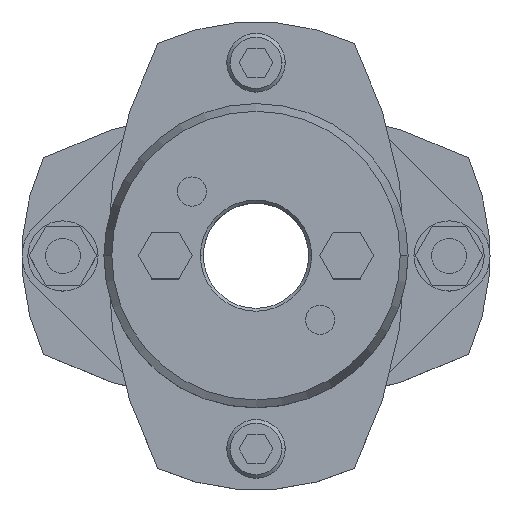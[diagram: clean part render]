
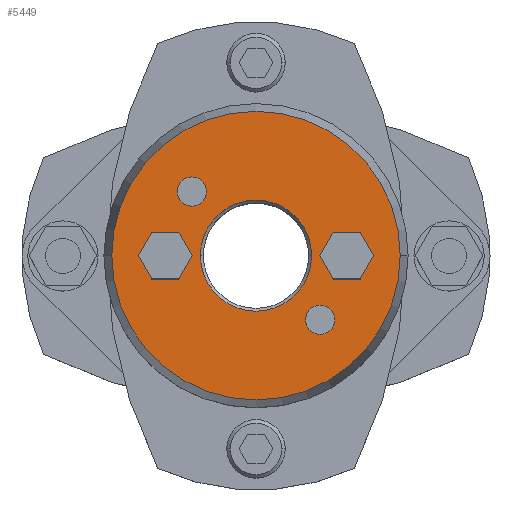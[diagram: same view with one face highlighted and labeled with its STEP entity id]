
A CAD part, top view. The second image highlights one B-rep face of the part: STEP entity #5449.
In plain terms, the highlighted planar face has unit normal (0, 0, 1).
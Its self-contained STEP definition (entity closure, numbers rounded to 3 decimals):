
#857=CARTESIAN_POINT('',(-9.5,0.,35.875));
#858=VERTEX_POINT('',#857);
#874=CARTESIAN_POINT('',(9.5,0.,35.875));
#875=VERTEX_POINT('',#874);
#882=CARTESIAN_POINT('',(0.,0.,35.875));
#883=DIRECTION('',(0.0,0.0,1.0));
#884=DIRECTION('',(-1.0,0.0,0.0));
#885=AXIS2_PLACEMENT_3D('',#882,#883,#884);
#886=CIRCLE('',#885,9.5);
#887=EDGE_CURVE('',#875,#858,#886,.T.);
#1045=CARTESIAN_POINT('',(24.66,0.,35.875));
#1046=VERTEX_POINT('',#1045);
#1053=CARTESIAN_POINT('',(-24.66,0.,35.875));
#1054=VERTEX_POINT('',#1053);
#1055=CARTESIAN_POINT('',(0.,0.,35.875));
#1056=DIRECTION('',(0.0,0.0,-1.0));
#1057=DIRECTION('',(1.0,0.0,0.0));
#1058=AXIS2_PLACEMENT_3D('',#1055,#1056,#1057);
#1059=CIRCLE('',#1058,24.66);
#1060=EDGE_CURVE('',#1046,#1054,#1059,.T.);
#1155=CARTESIAN_POINT('',(-13.46,10.96,35.875));
#1156=VERTEX_POINT('',#1155);
#1172=CARTESIAN_POINT('',(-8.46,10.96,35.875));
#1173=VERTEX_POINT('',#1172);
#1180=CARTESIAN_POINT('',(-10.96,10.96,35.875));
#1181=DIRECTION('',(0.0,0.0,-1.0));
#1182=DIRECTION('',(-1.0,0.0,0.0));
#1183=AXIS2_PLACEMENT_3D('',#1180,#1181,#1182);
#1184=CIRCLE('',#1183,2.5);
#1185=EDGE_CURVE('',#1156,#1173,#1184,.T.);
#1197=CARTESIAN_POINT('',(8.46,-10.96,35.875));
#1198=VERTEX_POINT('',#1197);
#1214=CARTESIAN_POINT('',(13.46,-10.96,35.875));
#1215=VERTEX_POINT('',#1214);
#1222=CARTESIAN_POINT('',(10.96,-10.96,35.875));
#1223=DIRECTION('',(0.0,0.0,-1.0));
#1224=DIRECTION('',(-1.0,0.0,0.0));
#1225=AXIS2_PLACEMENT_3D('',#1222,#1223,#1224);
#1226=CIRCLE('',#1225,2.5);
#1227=EDGE_CURVE('',#1198,#1215,#1226,.T.);
#4693=CARTESIAN_POINT('',(10.881,0.,35.875));
#4694=VERTEX_POINT('',#4693);
#4701=CARTESIAN_POINT('',(13.191,-4.,35.875));
#4702=VERTEX_POINT('',#4701);
#4703=CARTESIAN_POINT('',(13.191,-4.,35.875));
#4704=DIRECTION('',(-0.5,0.866,0.0));
#4705=VECTOR('',#4704,4.619);
#4706=LINE('',#4703,#4705);
#4707=EDGE_CURVE('',#4702,#4694,#4706,.T.);
#4731=CARTESIAN_POINT('',(13.191,4.,35.875));
#4732=VERTEX_POINT('',#4731);
#4739=CARTESIAN_POINT('',(10.881,0.,35.875));
#4740=DIRECTION('',(0.5,0.866,0.0));
#4741=VECTOR('',#4740,4.619);
#4742=LINE('',#4739,#4741);
#4743=EDGE_CURVE('',#4694,#4732,#4742,.T.);
#4762=CARTESIAN_POINT('',(17.809,4.,35.875));
#4763=VERTEX_POINT('',#4762);
#4770=CARTESIAN_POINT('',(13.191,4.,35.875));
#4771=DIRECTION('',(1.0,0.0,0.0));
#4772=VECTOR('',#4771,4.619);
#4773=LINE('',#4770,#4772);
#4774=EDGE_CURVE('',#4732,#4763,#4773,.T.);
#4793=CARTESIAN_POINT('',(20.119,0.,35.875));
#4794=VERTEX_POINT('',#4793);
#4801=CARTESIAN_POINT('',(17.809,4.,35.875));
#4802=DIRECTION('',(0.5,-0.866,0.0));
#4803=VECTOR('',#4802,4.619);
#4804=LINE('',#4801,#4803);
#4805=EDGE_CURVE('',#4763,#4794,#4804,.T.);
#4824=CARTESIAN_POINT('',(17.809,-4.,35.875));
#4825=VERTEX_POINT('',#4824);
#4832=CARTESIAN_POINT('',(20.119,0.,35.875));
#4833=DIRECTION('',(-0.5,-0.866,0.0));
#4834=VECTOR('',#4833,4.619);
#4835=LINE('',#4832,#4834);
#4836=EDGE_CURVE('',#4794,#4825,#4835,.T.);
#4854=CARTESIAN_POINT('',(17.809,-4.,35.875));
#4855=DIRECTION('',(-1.0,0.0,0.0));
#4856=VECTOR('',#4855,4.619);
#4857=LINE('',#4854,#4856);
#4858=EDGE_CURVE('',#4825,#4702,#4857,.T.);
#4893=CARTESIAN_POINT('',(-20.119,0.,35.875));
#4894=VERTEX_POINT('',#4893);
#4901=CARTESIAN_POINT('',(-17.809,-4.,35.875));
#4902=VERTEX_POINT('',#4901);
#4903=CARTESIAN_POINT('',(-17.809,-4.,35.875));
#4904=DIRECTION('',(-0.5,0.866,0.0));
#4905=VECTOR('',#4904,4.619);
#4906=LINE('',#4903,#4905);
#4907=EDGE_CURVE('',#4902,#4894,#4906,.T.);
#4931=CARTESIAN_POINT('',(-17.809,4.,35.875));
#4932=VERTEX_POINT('',#4931);
#4939=CARTESIAN_POINT('',(-20.119,0.,35.875));
#4940=DIRECTION('',(0.5,0.866,0.0));
#4941=VECTOR('',#4940,4.619);
#4942=LINE('',#4939,#4941);
#4943=EDGE_CURVE('',#4894,#4932,#4942,.T.);
#4962=CARTESIAN_POINT('',(-13.191,4.,35.875));
#4963=VERTEX_POINT('',#4962);
#4970=CARTESIAN_POINT('',(-17.809,4.,35.875));
#4971=DIRECTION('',(1.0,0.0,0.0));
#4972=VECTOR('',#4971,4.619);
#4973=LINE('',#4970,#4972);
#4974=EDGE_CURVE('',#4932,#4963,#4973,.T.);
#4993=CARTESIAN_POINT('',(-10.881,0.,35.875));
#4994=VERTEX_POINT('',#4993);
#5001=CARTESIAN_POINT('',(-13.191,4.,35.875));
#5002=DIRECTION('',(0.5,-0.866,0.0));
#5003=VECTOR('',#5002,4.619);
#5004=LINE('',#5001,#5003);
#5005=EDGE_CURVE('',#4963,#4994,#5004,.T.);
#5024=CARTESIAN_POINT('',(-13.191,-4.,35.875));
#5025=VERTEX_POINT('',#5024);
#5032=CARTESIAN_POINT('',(-10.881,0.,35.875));
#5033=DIRECTION('',(-0.5,-0.866,0.0));
#5034=VECTOR('',#5033,4.619);
#5035=LINE('',#5032,#5034);
#5036=EDGE_CURVE('',#4994,#5025,#5035,.T.);
#5054=CARTESIAN_POINT('',(-13.191,-4.,35.875));
#5055=DIRECTION('',(-1.0,0.0,0.0));
#5056=VECTOR('',#5055,4.619);
#5057=LINE('',#5054,#5056);
#5058=EDGE_CURVE('',#5025,#4902,#5057,.T.);
#5084=CARTESIAN_POINT('',(10.96,-10.96,35.875));
#5085=DIRECTION('',(0.0,0.0,-1.0));
#5086=DIRECTION('',(-1.0,0.0,0.0));
#5087=AXIS2_PLACEMENT_3D('',#5084,#5085,#5086);
#5088=CIRCLE('',#5087,2.5);
#5089=EDGE_CURVE('',#1215,#1198,#5088,.T.);
#5118=CARTESIAN_POINT('',(-10.96,10.96,35.875));
#5119=DIRECTION('',(0.0,0.0,-1.0));
#5120=DIRECTION('',(-1.0,0.0,0.0));
#5121=AXIS2_PLACEMENT_3D('',#5118,#5119,#5120);
#5122=CIRCLE('',#5121,2.5);
#5123=EDGE_CURVE('',#1173,#1156,#5122,.T.);
#5396=CARTESIAN_POINT('',(0.,0.,35.875));
#5397=DIRECTION('',(0.0,0.0,-1.0));
#5398=DIRECTION('',(1.0,0.0,0.0));
#5399=AXIS2_PLACEMENT_3D('',#5396,#5397,#5398);
#5400=CIRCLE('',#5399,24.66);
#5401=EDGE_CURVE('',#1054,#1046,#5400,.T.);
#5406=CARTESIAN_POINT('',(-2.364,0.,35.875));
#5407=DIRECTION('',(0.0,0.0,1.0));
#5408=DIRECTION('',(-1.0,0.0,0.0));
#5409=AXIS2_PLACEMENT_3D('',#5406,#5407,#5408);
#5410=PLANE('',#5409);
#5411=ORIENTED_EDGE('',*,*,#5401,.F.);
#5412=ORIENTED_EDGE('',*,*,#1060,.F.);
#5413=EDGE_LOOP('',(#5411,#5412));
#5414=FACE_OUTER_BOUND('',#5413,.T.);
#5415=ORIENTED_EDGE('',*,*,#4707,.T.);
#5416=ORIENTED_EDGE('',*,*,#4743,.T.);
#5417=ORIENTED_EDGE('',*,*,#4774,.T.);
#5418=ORIENTED_EDGE('',*,*,#4805,.T.);
#5419=ORIENTED_EDGE('',*,*,#4836,.T.);
#5420=ORIENTED_EDGE('',*,*,#4858,.T.);
#5421=EDGE_LOOP('',(#5415,#5416,#5417,#5418,#5419,#5420));
#5422=FACE_BOUND('',#5421,.T.);
#5423=ORIENTED_EDGE('',*,*,#4907,.T.);
#5424=ORIENTED_EDGE('',*,*,#4943,.T.);
#5425=ORIENTED_EDGE('',*,*,#4974,.T.);
#5426=ORIENTED_EDGE('',*,*,#5005,.T.);
#5427=ORIENTED_EDGE('',*,*,#5036,.T.);
#5428=ORIENTED_EDGE('',*,*,#5058,.T.);
#5429=EDGE_LOOP('',(#5423,#5424,#5425,#5426,#5427,#5428));
#5430=FACE_BOUND('',#5429,.T.);
#5431=ORIENTED_EDGE('',*,*,#1227,.T.);
#5432=ORIENTED_EDGE('',*,*,#5089,.T.);
#5433=EDGE_LOOP('',(#5431,#5432));
#5434=FACE_BOUND('',#5433,.T.);
#5435=ORIENTED_EDGE('',*,*,#1185,.T.);
#5436=ORIENTED_EDGE('',*,*,#5123,.T.);
#5437=EDGE_LOOP('',(#5435,#5436));
#5438=FACE_BOUND('',#5437,.T.);
#5439=ORIENTED_EDGE('',*,*,#887,.F.);
#5440=CARTESIAN_POINT('',(0.,0.,35.875));
#5441=DIRECTION('',(0.0,0.0,1.0));
#5442=DIRECTION('',(-1.0,0.0,0.0));
#5443=AXIS2_PLACEMENT_3D('',#5440,#5441,#5442);
#5444=CIRCLE('',#5443,9.5);
#5445=EDGE_CURVE('',#858,#875,#5444,.T.);
#5446=ORIENTED_EDGE('',*,*,#5445,.F.);
#5447=EDGE_LOOP('',(#5439,#5446));
#5448=FACE_BOUND('',#5447,.T.);
#5449=ADVANCED_FACE('',(#5414,#5422,#5430,#5434,#5438,#5448),#5410,.T.);
